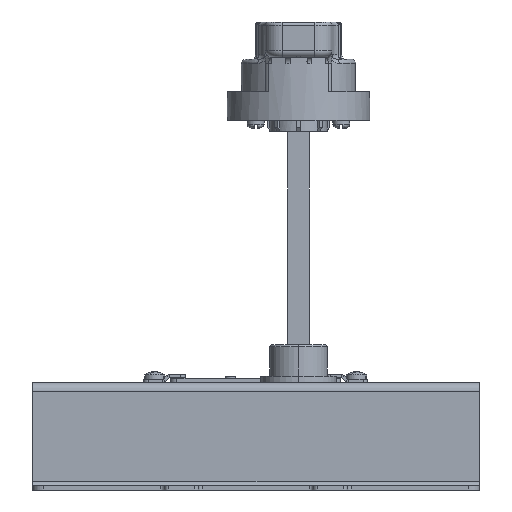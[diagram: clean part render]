
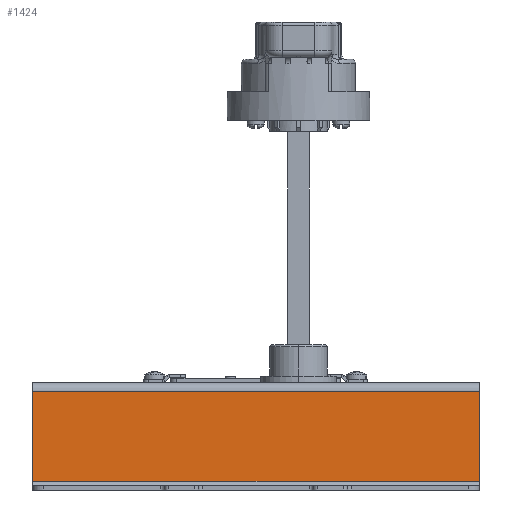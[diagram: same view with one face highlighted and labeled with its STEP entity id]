
A CAD part, front view. The second image highlights one B-rep face of the part: STEP entity #1424.
In plain terms, the highlighted planar face has unit normal (0, -1, 0).
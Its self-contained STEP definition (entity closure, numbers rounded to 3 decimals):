
#575=PLANE('',#18096);
#1424=ADVANCED_FACE('',(#2732),#575,.T.);
#2732=FACE_OUTER_BOUND('',#3739,.T.);
#3739=EDGE_LOOP('',(#8835,#8836,#8837,#8838));
#4868=LINE('',#25889,#6372);
#4932=LINE('',#26081,#6436);
#4952=LINE('',#26178,#6456);
#4954=LINE('',#26182,#6458);
#6372=VECTOR('',#20533,1.);
#6436=VECTOR('',#20725,1.);
#6456=VECTOR('',#20875,1.);
#6458=VECTOR('',#20881,1.);
#8835=ORIENTED_EDGE('',*,*,#14801,.T.);
#8836=ORIENTED_EDGE('',*,*,#14861,.F.);
#8837=ORIENTED_EDGE('',*,*,#14705,.T.);
#8838=ORIENTED_EDGE('',*,*,#14859,.F.);
#12949=VERTEX_POINT('',#25884);
#12951=VERTEX_POINT('',#25890);
#13013=VERTEX_POINT('',#26076);
#13015=VERTEX_POINT('',#26082);
#14705=EDGE_CURVE('',#12951,#12949,#4868,.T.);
#14801=EDGE_CURVE('',#13015,#13013,#4932,.T.);
#14859=EDGE_CURVE('',#13015,#12949,#4952,.T.);
#14861=EDGE_CURVE('',#12951,#13013,#4954,.T.);
#18096=AXIS2_PLACEMENT_3D('',#26185,#20885,#20886);
#20533=DIRECTION('',(0.,0.,-1.));
#20725=DIRECTION('',(0.,0.,1.));
#20875=DIRECTION('',(-1.,0.,0.));
#20881=DIRECTION('',(1.,0.,0.));
#20885=DIRECTION('',(0.,-1.,0.));
#20886=DIRECTION('',(0.,0.,-1.));
#25884=CARTESIAN_POINT('',(2376.571,-142.148,153.41));
#25889=CARTESIAN_POINT('',(2376.571,-142.148,140.91));
#25890=CARTESIAN_POINT('',(2376.571,-142.148,195.91));
#26076=CARTESIAN_POINT('',(2586.571,-142.148,195.91));
#26081=CARTESIAN_POINT('',(2586.571,-142.148,140.91));
#26082=CARTESIAN_POINT('',(2586.571,-142.148,153.41));
#26178=CARTESIAN_POINT('',(2406.571,-142.148,153.41));
#26182=CARTESIAN_POINT('',(2406.571,-142.148,195.91));
#26185=CARTESIAN_POINT('',(2406.571,-142.148,140.91));
